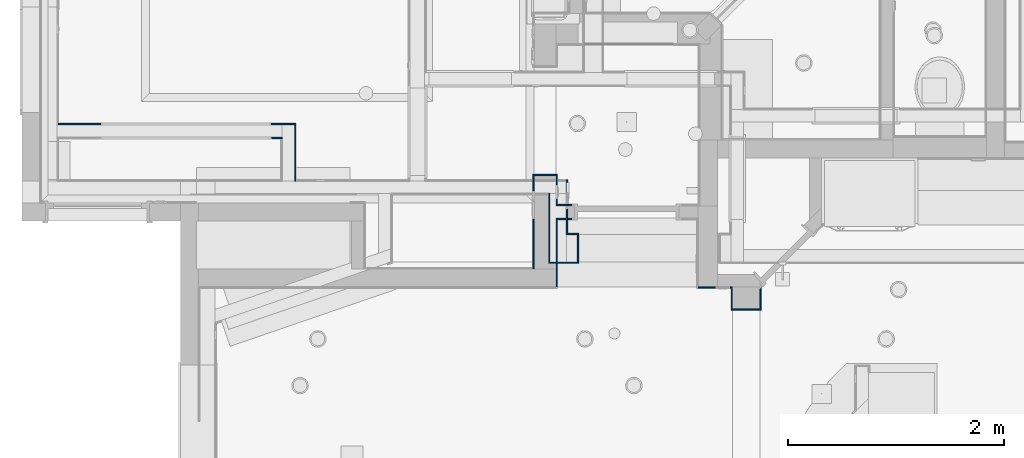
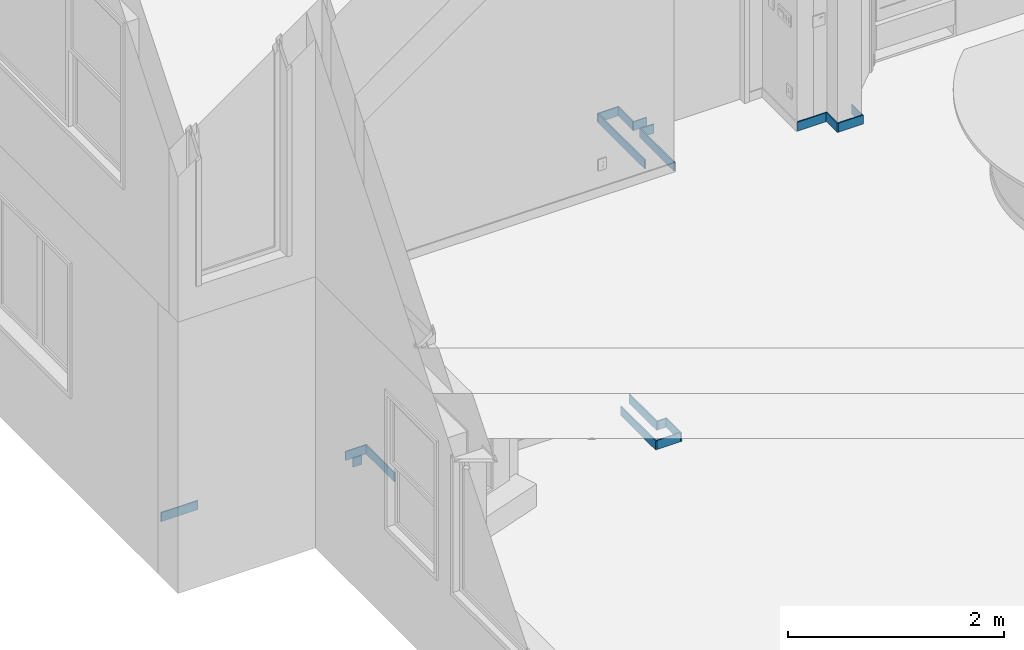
# One storey, part 20 of 60: 19 walls, 2 openings.
"""IFC2X3 building model written with IfcOpenShell, lengths in feet."""

from ifc_helpers import new_model, entity, si_unit, converted_unit, direction, frame, frame_2d, origin, place, context, subcontext, project, spatial, polyline, rectangle, outline, extrude, material, layer, layer_set, layer_usage, type_object, element, save


model = new_model("IFC2X3")

# Units and contexts
model_context = context("Model", 3, precision=0.0001, world=origin(), true_north=direction((6.123031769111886e-17, 1.0)))
plan_context = context("Plan", 3, precision=0.0001, world=origin(), true_north=direction((6.123031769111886e-17, 1.0)))
body_context = subcontext(model_context, "Body", "Model", "MODEL_VIEW")
ifc_project = project(units=[converted_unit("LENGTHUNIT", "FOOT", entity("IfcLengthMeasure", 0.3048), si_unit("LENGTHUNIT", "METRE"), dimensions=[1, 0, 0, 0, 0, 0, 0]), converted_unit("AREAUNIT", "SQUARE FOOT", entity("IfcAreaMeasure", 0.09290304), si_unit("AREAUNIT", "SQUARE_METRE"), dimensions=[2, 0, 0, 0, 0, 0, 0]), converted_unit("PLANEANGLEUNIT", "DEGREE", entity("IfcPlaneAngleMeasure", 0.017453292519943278), si_unit("PLANEANGLEUNIT", "RADIAN"), dimensions=[0, 0, 0, 0, 0, 0, 0])], contexts=[model_context, plan_context])

# Site, building, storey
site_placement = place(None, origin())
site = spatial("IfcSite", under=ifc_project, at=site_placement, Name="Default", CompositionType="ELEMENT")
building_placement = place(site_placement, origin())
building = spatial("IfcBuilding", under=site, at=building_placement, CompositionType="ELEMENT")
storey_placement = place(building_placement, origin())
storey = spatial("IfcBuildingStorey", under=building, at=storey_placement, Name="First floor", CompositionType="ELEMENT", Elevation=0.0)

# Walls
ifc_material = material(Name="Default New Material")
ifc_layer = layer(ifc_material, 0.041666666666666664)
ifc_layer_set = layer_set([ifc_layer], Name="Basic Wall:Wall Border_T1")
ifc_layer_usage_1 = layer_usage(ifc_layer_set, "AXIS2", "POSITIVE", -0.020833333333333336)
wall_type = type_object("IfcWallType", Name="Basic Wall:Wall Border_T1", PredefinedType="STANDARD", material=ifc_layer_set)
wall_1_placement = place(storey_placement, frame((-5.8541666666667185, 31.874999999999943, 0.0), z_axis=(0.0, 0.0, 1.0), x_axis=(0.0, -1.0, 0.0)))
element("IfcWallStandardCase", 1, at=wall_1_placement, inside=storey, type_object=wall_type, material=ifc_layer_usage_1, Name="Basic Wall:Wall Border_T1", ObjectType="Basic Wall:Wall Border_T1", context=body_context, shape_type="SweptSolid", body=[
    extrude(rectangle(XDim=2.1249999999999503, YDim=0.041666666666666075, at=frame_2d((1.0624999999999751, 3.469446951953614e-17), x_axis=(-1.0, 0.0))), origin(), (0.0, 0.0, 1.0), 0.3333333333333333),
])
ifc_layer_usage_2 = layer_usage(ifc_layer_set, "AXIS2", "POSITIVE", -0.020833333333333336)
wall_2_placement = place(storey_placement, frame((-5.833333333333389, 29.77083333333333, 0.0)))
element("IfcWallStandardCase", 2, at=wall_2_placement, inside=storey, type_object=wall_type, material=ifc_layer_usage_2, Name="Basic Wall:Wall Border_T1", ObjectType="Basic Wall:Wall Border_T1", context=body_context, shape_type="SweptSolid", body=[
    extrude(rectangle(XDim=0.833333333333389, YDim=0.0416666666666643, at=frame_2d((0.4166666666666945, 0.0), x_axis=(-1.0, 0.0))), origin(), (0.0, 0.0, 1.0), 0.3333333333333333),
])
ifc_layer_usage_3 = layer_usage(ifc_layer_set, "AXIS2", "POSITIVE", -0.020833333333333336)
wall_3_placement = place(storey_placement, frame((-4.979166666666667, 29.749999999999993, 0.0), z_axis=(0.0, 0.0, 1.0), x_axis=(0.0, 1.0, 0.0)))
element("IfcWallStandardCase", 3, at=wall_3_placement, inside=storey, type_object=wall_type, material=ifc_layer_usage_3, Name="Basic Wall:Wall Border_T1", ObjectType="Basic Wall:Wall Border_T1", context=body_context, shape_type="SweptSolid", body=[
    extrude(rectangle(XDim=0.916666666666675, YDim=0.041666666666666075, at=frame_2d((0.4583333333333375, 8.847089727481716e-17), x_axis=(-1.0, 0.0))), origin(), (0.0, 0.0, 1.0), 0.3333333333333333),
])
ifc_layer_usage_4 = layer_usage(ifc_layer_set, "AXIS2", "POSITIVE", -0.020833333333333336)
wall_4_placement = place(storey_placement, frame((-5.0, 30.64583333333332, 0.0), z_axis=(0.0, 0.0, 1.0), x_axis=(-1.0, 0.0, 0.0)))
element("IfcWallStandardCase", 4, at=wall_4_placement, inside=storey, type_object=wall_type, material=ifc_layer_usage_4, Name="Basic Wall:Wall Border_T1", ObjectType="Basic Wall:Wall Border_T1", context=body_context, shape_type="SweptSolid", body=[
    extrude(rectangle(XDim=0.29166666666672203, YDim=0.0416666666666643, at=frame_2d((0.14583333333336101, 0.0), x_axis=(-1.0, 0.0))), origin(), (0.0, 0.0, 1.0), 0.3333333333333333),
])
ifc_layer_usage_5 = layer_usage(ifc_layer_set, "AXIS2", "POSITIVE", -0.020833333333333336)
wall_5_placement = place(storey_placement, frame((-5.312500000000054, 30.62499999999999, 0.0), z_axis=(0.0, 0.0, 1.0), x_axis=(0.0, 1.0, 0.0)))
element("IfcWallStandardCase", 5, at=wall_5_placement, inside=storey, type_object=wall_type, material=ifc_layer_usage_5, Name="Basic Wall:Wall Border_T1", ObjectType="Basic Wall:Wall Border_T1", context=body_context, shape_type="SweptSolid", body=[
    extrude(rectangle(XDim=1.6666666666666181, YDim=0.041666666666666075, at=frame_2d((0.8333333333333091, 3.469446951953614e-17), x_axis=(-1.0, 0.0))), origin(), (0.0, 0.0, 1.0), 0.3333333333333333),
])
ifc_layer_usage_6 = layer_usage(ifc_layer_set, "AXIS2", "POSITIVE", -0.020833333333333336)
wall_6_placement = place(storey_placement, frame((-14.270833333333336, 33.562499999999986, 0.0)))
element("IfcWallStandardCase", 6, at=wall_6_placement, inside=storey, type_object=wall_type, material=ifc_layer_usage_6, Name="Basic Wall:Wall Border_T1", ObjectType="Basic Wall:Wall Border_T1", context=body_context, shape_type="SweptSolid", body=[
    extrude(rectangle(XDim=0.3124999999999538, YDim=0.041666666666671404, at=frame_2d((0.1562499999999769, 0.0), x_axis=(-1.0, 0.0))), origin(), (0.0, 0.0, 1.0), 0.3333333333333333),
])
ifc_layer_usage_7 = layer_usage(ifc_layer_set, "AXIS2", "POSITIVE", -0.020833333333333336)
wall_7_placement = place(storey_placement, frame((-20.750000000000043, 33.97916666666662, 0.0)))
element("IfcWallStandardCase", 7, at=wall_7_placement, inside=storey, type_object=wall_type, material=ifc_layer_usage_7, Name="Basic Wall:Wall Border_T1", ObjectType="Basic Wall:Wall Border_T1", context=body_context, shape_type="SweptSolid", body=[
    extrude(rectangle(XDim=1.2916666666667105, YDim=0.041666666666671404, at=frame_2d((0.6458333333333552, -5.724587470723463e-17), x_axis=(-1.0, 0.0))), origin(), (0.0, 0.0, 1.0), 0.3333333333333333),
])
ifc_layer_usage_8 = layer_usage(ifc_layer_set, "AXIS2", "POSITIVE", -0.020833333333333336)
wall_8_placement = place(storey_placement, frame((-13.562500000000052, 32.24999999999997, 0.0), z_axis=(0.0, 0.0, 1.0), x_axis=(0.0, 1.0, 0.0)))
element("IfcWallStandardCase", 8, at=wall_8_placement, inside=storey, type_object=wall_type, material=ifc_layer_usage_8, Name="Basic Wall:Wall Border_T1", ObjectType="Basic Wall:Wall Border_T1", context=body_context, shape_type="SweptSolid", body=[
    extrude(rectangle(XDim=1.7083333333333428, YDim=0.04166666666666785, at=frame_2d((0.8541666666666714, 0.0), x_axis=(-1.0, 0.0))), origin(), (0.0, 0.0, 1.0), 0.3333333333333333),
])
ifc_layer_usage_9 = layer_usage(ifc_layer_set, "AXIS2", "POSITIVE", -0.020833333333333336)
wall_9_placement = place(storey_placement, frame((-13.541666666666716, 33.97916666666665, 0.0), z_axis=(0.0, 0.0, 1.0), x_axis=(-1.0, 0.0, 0.0)))
element("IfcWallStandardCase", 9, at=wall_9_placement, inside=storey, type_object=wall_type, material=ifc_layer_usage_9, Name="Basic Wall:Wall Border_T1", ObjectType="Basic Wall:Wall Border_T1", context=body_context, shape_type="SweptSolid", body=[
    extrude(rectangle(XDim=0.749999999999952, YDim=0.041666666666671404, at=frame_2d((0.374999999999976, 0.0), x_axis=(-1.0, 0.0))), origin(), (0.0, 0.0, 1.0), 0.3333333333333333),
])
ifc_layer_usage_10 = layer_usage(ifc_layer_set, "AXIS2", "NEGATIVE", 0.020833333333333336)
wall_10_placement = place(storey_placement, frame((-5.604166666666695, 32.43749999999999, 10.666666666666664), z_axis=(0.0, 0.0, 1.0), x_axis=(-1.0, 0.0, 0.0)))
element("IfcWallStandardCase", 10, at=wall_10_placement, inside=storey, type_object=wall_type, material=ifc_layer_usage_10, Name="Basic Wall:Wall Border_T1", ObjectType="Basic Wall:Wall Border_T1", context=body_context, shape_type="SweptSolid", body=[
    extrude(rectangle(XDim=0.7500000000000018, YDim=0.041666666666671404, at=frame_2d((0.3750000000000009, -2.3505503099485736e-15), x_axis=(-1.0, 0.0))), origin(), (0.0, 0.0, 1.0), 0.3333333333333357),
])
ifc_layer_usage_11 = layer_usage(ifc_layer_set, "AXIS2", "NEGATIVE", 0.020833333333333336)
wall_11_placement = place(storey_placement, frame((-6.333333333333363, 32.416666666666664, 10.666666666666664), z_axis=(0.0, 0.0, 1.0), x_axis=(0.0, -1.0, 0.0)))
element("IfcWallStandardCase", 11, at=wall_11_placement, inside=storey, type_object=wall_type, material=ifc_layer_usage_11, Name="Basic Wall:Wall Border_T1", ObjectType="Basic Wall:Wall Border_T1", context=body_context, shape_type="SweptSolid", body=[
    extrude(rectangle(XDim=2.8333333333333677, YDim=0.041666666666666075, at=frame_2d((1.4166666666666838, 3.5041414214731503e-16), x_axis=(-1.0, 0.0))), origin(), (0.0, 0.0, 1.0), 0.3333333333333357),
])
ifc_layer_usage_12 = layer_usage(ifc_layer_set, "AXIS2", "NEGATIVE", 0.020833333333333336)
wall_12_placement = place(storey_placement, frame((-5.166666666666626, 31.520833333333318, 10.666666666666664), z_axis=(0.0, 0.0, 1.0), x_axis=(-1.0, 0.0, 0.0)))
element("IfcWallStandardCase", 12, at=wall_12_placement, inside=storey, type_object=wall_type, material=ifc_layer_usage_12, Name="Basic Wall:Wall Border_T1", ObjectType="Basic Wall:Wall Border_T1", context=body_context, shape_type="SweptSolid", body=[
    extrude(rectangle(XDim=0.47916666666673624, YDim=0.0416666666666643, at=frame_2d((0.23958333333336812, 0.0), x_axis=(-1.0, 0.0))), origin(), (0.0, 0.0, 1.0), 0.3333333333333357),
])
ifc_layer_usage_13 = layer_usage(ifc_layer_set, "AXIS2", "NEGATIVE", 0.020833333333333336)
wall_13_placement = place(storey_placement, frame((-5.625000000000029, 31.541666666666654, 10.666666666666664), z_axis=(0.0, 0.0, 1.0), x_axis=(0.0, 1.0, 0.0)))
element("IfcWallStandardCase", 13, at=wall_13_placement, inside=storey, type_object=wall_type, material=ifc_layer_usage_13, Name="Basic Wall:Wall Border_T1", ObjectType="Basic Wall:Wall Border_T1", context=body_context, shape_type="SweptSolid", body=[
    extrude(rectangle(XDim=0.8750000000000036, YDim=0.041666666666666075, at=frame_2d((0.4375000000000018, 0.0), x_axis=(-1.0, 0.0))), origin(), (0.0, 0.0, 1.0), 0.3333333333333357),
])
ifc_layer_usage_14 = layer_usage(ifc_layer_set, "AXIS2", "POSITIVE", -0.020833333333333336)
wall_14_placement = place(storey_placement, frame((-5.625000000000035, 29.04166666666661, 10.666666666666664), z_axis=(0.0, 0.0, 1.0), x_axis=(0.0, 1.0, 0.0)))
element("IfcWallStandardCase", 14, at=wall_14_placement, inside=storey, type_object=wall_type, material=ifc_layer_usage_14, Name="Basic Wall:Wall Border_T1", ObjectType="Basic Wall:Wall Border_T1", context=body_context, shape_type="SweptSolid", body=[
    extrude(rectangle(XDim=2.083333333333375, YDim=0.041666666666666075, at=frame_2d((1.0416666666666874, 0.0), x_axis=(-1.0, 0.0))), origin(), (0.0, 0.0, 1.0), 0.3333333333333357),
])
ifc_layer_usage_15 = layer_usage(ifc_layer_set, "AXIS2", "POSITIVE", -0.020833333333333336)
wall_15_placement = place(storey_placement, frame((-5.604166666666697, 31.104166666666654, 10.666666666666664)))
element("IfcWallStandardCase", 15, at=wall_15_placement, inside=storey, type_object=wall_type, material=ifc_layer_usage_15, Name="Basic Wall:Wall Border_T1", ObjectType="Basic Wall:Wall Border_T1", context=body_context, shape_type="SweptSolid", body=[
    extrude(rectangle(XDim=0.4375000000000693, YDim=0.0416666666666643, at=frame_2d((0.21875000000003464, 0.0), x_axis=(-1.0, 0.0))), origin(), (0.0, 0.0, 1.0), 0.3333333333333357),
])

# Wall, opening
ifc_layer_usage_16 = layer_usage(ifc_layer_set, "AXIS2", "POSITIVE", -0.020833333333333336)
wall_16_placement = place(storey_placement, frame((-1.3333333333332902, 29.02083333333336, 10.666666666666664)))
wall_16 = element("IfcWallStandardCase", 16, at=wall_16_placement, inside=storey, type_object=wall_type, material=ifc_layer_usage_16, Name="Basic Wall:Wall Border_T1", ObjectType="Basic Wall:Wall Border_T1", context=body_context, shape_type="SweptSolid", body=[
    extrude(rectangle(XDim=1.041666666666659, YDim=0.04166666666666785, at=frame_2d((0.5208333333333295, -1.7763568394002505e-15), x_axis=(-1.0, 0.0))), origin(), (0.0, 0.0, 1.0), 0.3333333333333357),
])
opening_1_placement = place(wall_16_placement, frame((1.3333333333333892, -29.020833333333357, 0.0)))
element("IfcOpeningElement", 17, at=opening_1_placement, cuts=wall_16, Name="Basic Wall:Wall Border_T1", ObjectType="Opening", context=body_context, shape_type="SweptSolid", body=[
    extrude(rectangle(XDim=8.083333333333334, YDim=0.3749999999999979, at=frame_2d((-1.8735013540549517e-15, 8.881784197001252e-16), x_axis=(0.0, 1.0))), frame((0.4975624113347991, 29.262727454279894, 4.041666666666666), z_axis=(0.7071067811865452, 0.7071067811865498, 0.0), x_axis=(-0.7071067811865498, 0.7071067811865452, 0.0)), (0.0, 0.0, 1.0), 2.16666666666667),
])

# Walls
ifc_layer_usage_17 = layer_usage(ifc_layer_set, "AXIS2", "POSITIVE", -0.020833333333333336)
wall_17_placement = place(storey_placement, frame((-0.31249999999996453, 29.0, 10.666666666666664), z_axis=(0.0, 0.0, 1.0), x_axis=(0.0, -1.0, 0.0)))
element("IfcWallStandardCase", 18, at=wall_17_placement, inside=storey, type_object=wall_type, material=ifc_layer_usage_17, Name="Basic Wall:Wall Border_T1", ObjectType="Basic Wall:Wall Border_T1", context=body_context, shape_type="SweptSolid", body=[
    extrude(rectangle(XDim=0.6666666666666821, YDim=0.04166666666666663, at=frame_2d((0.33333333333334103, 5.204170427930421e-18), x_axis=(-1.0, 0.0))), origin(), (0.0, 0.0, 1.0), 0.3333333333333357),
])
ifc_layer_usage_18 = layer_usage(ifc_layer_set, "AXIS2", "POSITIVE", -0.020833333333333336)
wall_18_placement = place(storey_placement, frame((-0.2916666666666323, 28.354166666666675, 10.666666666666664)))
element("IfcWallStandardCase", 19, at=wall_18_placement, inside=storey, type_object=wall_type, material=ifc_layer_usage_18, Name="Basic Wall:Wall Border_T1", ObjectType="Basic Wall:Wall Border_T1", context=body_context, shape_type="SweptSolid", body=[
    extrude(rectangle(XDim=0.8750000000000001, YDim=0.0416666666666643, at=frame_2d((0.43750000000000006, 8.847089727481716e-17), x_axis=(-1.0, 0.0))), origin(), (0.0, 0.0, 1.0), 0.3333333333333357),
])

# Wall, opening
ifc_layer_usage_19 = layer_usage(ifc_layer_set, "AXIS2", "POSITIVE", -0.020833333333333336)
wall_19_placement = place(storey_placement, frame((0.5625000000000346, 28.375000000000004, 10.666666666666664), z_axis=(0.0, 0.0, 1.0), x_axis=(0.0, 1.0, 0.0)))
wall_19 = element("IfcWallStandardCase", 20, at=wall_19_placement, inside=storey, type_object=wall_type, material=ifc_layer_usage_19, Name="Basic Wall:Wall Border_T1", ObjectType="Basic Wall:Wall Border_T1", context=body_context, shape_type="SweptSolid", body=[
    extrude(outline(polyline([(0.6494077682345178, -0.020833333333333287), (0.60774110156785, 0.020833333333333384), (0.0, 0.02083333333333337), (0.0, -0.02083333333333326), (0.6494077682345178, -0.020833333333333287)])), origin(), (0.0, 0.0, 1.0), 0.3333333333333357),
])
opening_2_placement = place(wall_19_placement, frame((-28.375000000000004, 0.5624999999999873, 0.0)))
element("IfcOpeningElement", 21, at=opening_2_placement, cuts=wall_19, Name="Basic Wall:Wall Border_T1", ObjectType="Opening", context=body_context, shape_type="SweptSolid", body=[
    extrude(rectangle(XDim=8.083333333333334, YDim=2.166666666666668, at=frame_2d((8.881784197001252e-16, -1.7763568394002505e-15), x_axis=(1.0, 0.0))), frame((29.89617727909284, -1.3961772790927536, 4.041666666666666), z_axis=(0.707106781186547, 0.7071067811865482, 0.0), x_axis=(0.0, 0.0, 1.0)), (0.0, 0.0, 1.0), 0.37499999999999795),
])

save(model, "model.ifc")
